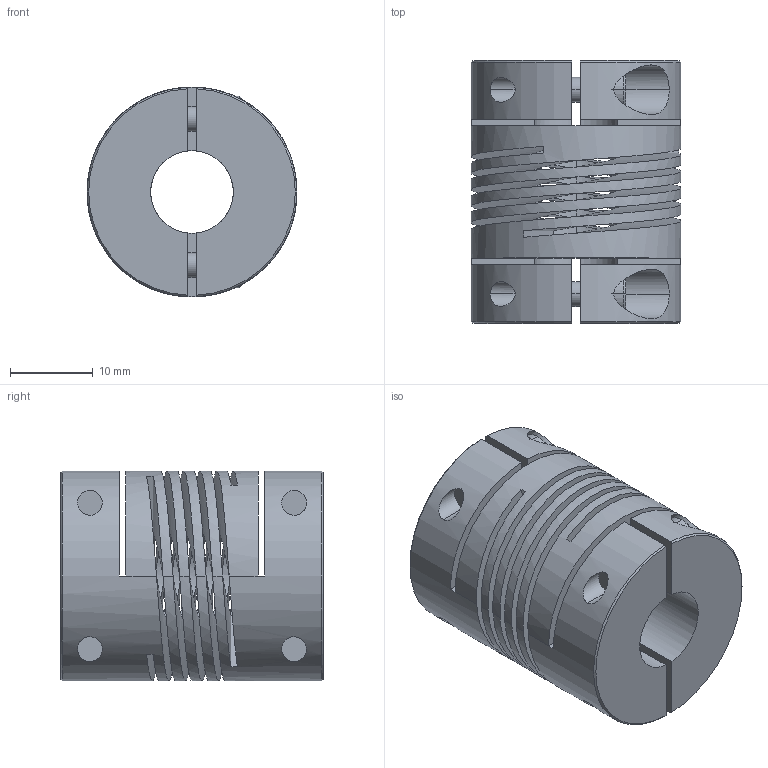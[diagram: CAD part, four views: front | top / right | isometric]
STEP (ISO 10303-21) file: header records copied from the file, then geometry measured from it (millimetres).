
FILE_DESCRIPTION((''),'2;1');
FILE_NAME('721_25','2006-12-05T',('Gary Melling'),(''),'PRO/ENGINEER BY PARAMETRIC TECHNOLOGY CORPORATION, 2006240','PRO/ENGINEER BY PARAMETRIC TECHNOLOGY CORPORATION, 2006240','');
FILE_SCHEMA(('CONFIG_CONTROL_DESIGN'));
Length unit declared in the file: millimetre
Products named in the file (1): 721_25
Bounding box: 25.4 x 31.8 x 25.4 mm (x, y, z)
Volume: 10695.9 mm3; surface area: 10055.4 mm2
Topology: 1 solids, 1 shells, 145 faces, 381 edges, 248 vertices
Faces by surface type: plane 72, cylinder 55, cone 12, bspline 6
Entity records: 6341 total; most frequent: CARTESIAN_POINT 2772, ORIENTED_EDGE 762, DIRECTION 675, EDGE_CURVE 381, VERTEX_POINT 248, AXIS2_PLACEMENT_3D 231, VECTOR 213, LINE 213
